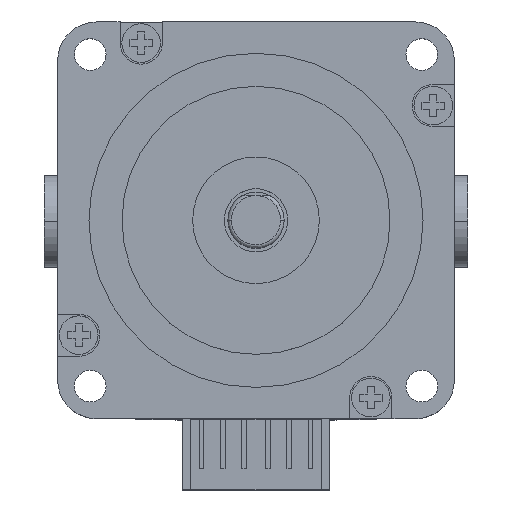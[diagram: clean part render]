
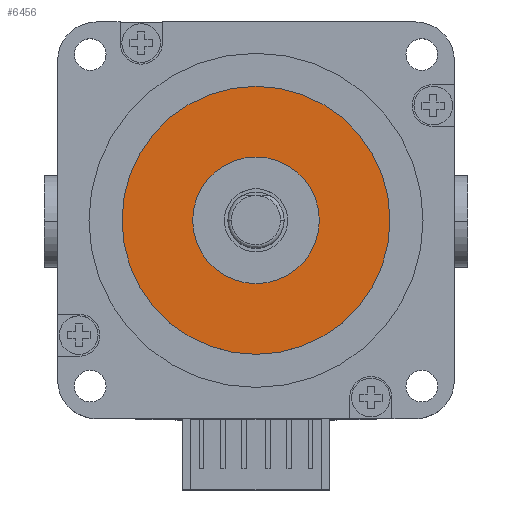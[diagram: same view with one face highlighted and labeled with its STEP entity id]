
A CAD part, top view. The second image highlights one B-rep face of the part: STEP entity #6456.
In plain terms, the highlighted planar face has unit normal (0, 0, 1).
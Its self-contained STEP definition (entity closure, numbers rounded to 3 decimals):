
#238 = EDGE_CURVE ( 'NONE', #6253, #2963, #5739, .T. ) ;
#570 = ORIENTED_EDGE ( 'NONE', *, *, #6570, .T. ) ;
#583 = CARTESIAN_POINT ( 'NONE',  ( 0., 0., 1.6 ) ) ;
#730 = VERTEX_POINT ( 'NONE', #3298 ) ;
#1132 = AXIS2_PLACEMENT_3D ( 'NONE', #7937, #3677, #8602 ) ;
#1323 = CARTESIAN_POINT ( 'NONE',  ( -19.05, 0., 1.6 ) ) ;
#1338 = EDGE_LOOP ( 'NONE', ( #1595, #2182 ) ) ;
#1391 = AXIS2_PLACEMENT_3D ( 'NONE', #583, #7709, #9218 ) ;
#1595 = ORIENTED_EDGE ( 'NONE', *, *, #238, .F. ) ;
#1878 = AXIS2_PLACEMENT_3D ( 'NONE', #4072, #6279, #8372 ) ;
#2018 = CIRCLE ( 'NONE', #4472, 9. ) ;
#2182 = ORIENTED_EDGE ( 'NONE', *, *, #5947, .F. ) ;
#2321 = EDGE_CURVE ( 'NONE', #730, #2810, #6419, .T. ) ;
#2810 = VERTEX_POINT ( 'NONE', #1323 ) ;
#2963 = VERTEX_POINT ( 'NONE', #5559 ) ;
#3298 = CARTESIAN_POINT ( 'NONE',  ( 19.05, 0., 1.6 ) ) ;
#3341 = CARTESIAN_POINT ( 'NONE',  ( 0., 0., 1.6 ) ) ;
#3388 = PLANE ( 'NONE',  #1878 ) ;
#3677 = DIRECTION ( 'NONE',  ( 0., 0., 1. ) ) ;
#3683 = FACE_OUTER_BOUND ( 'NONE', #6242, .T. ) ;
#3708 = CARTESIAN_POINT ( 'NONE',  ( 0., 0., 1.6 ) ) ;
#4072 = CARTESIAN_POINT ( 'NONE',  ( 0., 0., 1.6 ) ) ;
#4472 = AXIS2_PLACEMENT_3D ( 'NONE', #3341, #8331, #9047 ) ;
#4880 = AXIS2_PLACEMENT_3D ( 'NONE', #3708, #7973, #8704 ) ;
#4977 = ORIENTED_EDGE ( 'NONE', *, *, #2321, .T. ) ;
#5559 = CARTESIAN_POINT ( 'NONE',  ( 9., 0., 1.6 ) ) ;
#5739 = CIRCLE ( 'NONE', #4880, 9. ) ;
#5947 = EDGE_CURVE ( 'NONE', #2963, #6253, #2018, .T. ) ;
#6242 = EDGE_LOOP ( 'NONE', ( #4977, #570 ) ) ;
#6253 = VERTEX_POINT ( 'NONE', #8195 ) ;
#6279 = DIRECTION ( 'NONE',  ( 0., 0., -1. ) ) ;
#6419 = CIRCLE ( 'NONE', #1132, 19.05 ) ;
#6456 = ADVANCED_FACE ( 'NONE', ( #8156, #3683 ), #3388, .F. ) ;
#6570 = EDGE_CURVE ( 'NONE', #2810, #730, #9055, .T. ) ;
#7709 = DIRECTION ( 'NONE',  ( 0., 0., 1. ) ) ;
#7937 = CARTESIAN_POINT ( 'NONE',  ( 0., 0., 1.6 ) ) ;
#7973 = DIRECTION ( 'NONE',  ( 0., 0., 1. ) ) ;
#8156 = FACE_BOUND ( 'NONE', #1338, .T. ) ;
#8195 = CARTESIAN_POINT ( 'NONE',  ( -9., 0., 1.6 ) ) ;
#8331 = DIRECTION ( 'NONE',  ( 0., 0., 1. ) ) ;
#8372 = DIRECTION ( 'NONE',  ( -1., 0., 0. ) ) ;
#8602 = DIRECTION ( 'NONE',  ( 1., 0., 0. ) ) ;
#8704 = DIRECTION ( 'NONE',  ( -1., 0., 0. ) ) ;
#9047 = DIRECTION ( 'NONE',  ( -1., 0., 0. ) ) ;
#9055 = CIRCLE ( 'NONE', #1391, 19.05 ) ;
#9218 = DIRECTION ( 'NONE',  ( 1., 0., 0. ) ) ;
